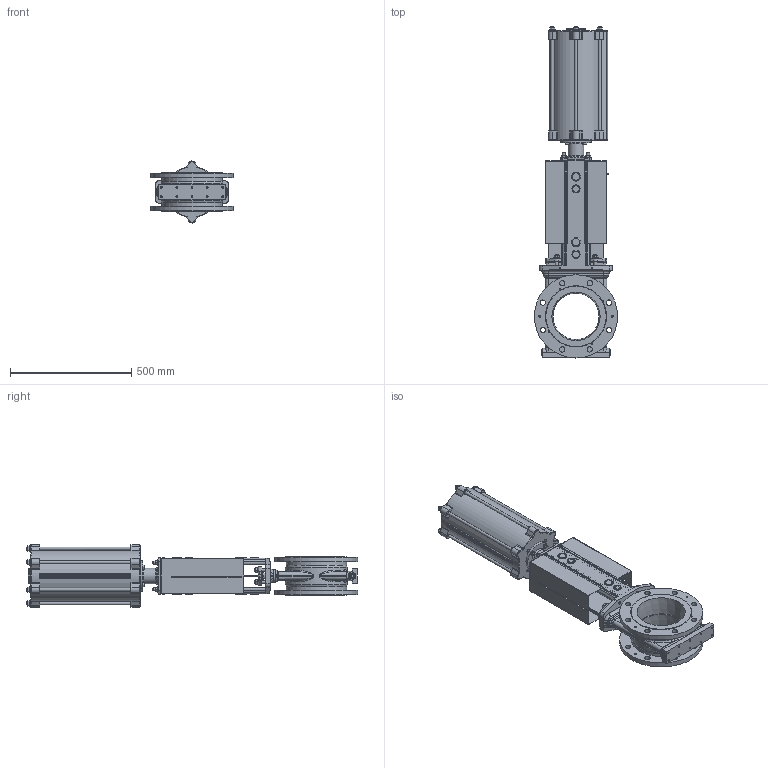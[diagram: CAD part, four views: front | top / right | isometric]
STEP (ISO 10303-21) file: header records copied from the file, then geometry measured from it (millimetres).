
FILE_DESCRIPTION(/* description */ (''),/* implementation_level */ '2;1');
FILE_NAME(/* name */ 'F:\3D Sammanställningar\SLV-SLF\DN200\SLF-DN200-PN10-FRSC200-270.stp',/* time_stamp */ '2018-06-28T15:48:44+02:00',/* author */ ('chrsko'),/* organization */ (''),/* preprocessor_version */ 'ST-DEVELOPER v16.13',/* originating_system */ 'Autodesk Inventor 2018',/* authorisation */ '');
FILE_SCHEMA (('AUTOMOTIVE_DESIGN { 1 0 10303 214 3 1 1 }'));
Products named in the file (1): SLF-DN200-PN10-FRSC200-270
Bounding box: 343 x 1368.5 x 256 mm (x, y, z)
Volume: 15106033.3 mm3; surface area: 2979810.8 mm2
Topology: 3 solids, 3 shells, 2734 faces, 6602 edges, 3985 vertices
Faces by surface type: plane 929, cylinder 700, bspline 359, cone 322, torus 296, sphere 128
Full cylindrical faces by diameter (mm): 3 x10, 3.5 x8, 3.6 x8, 4 x2, 4.134 x8, 4.5 x8, 4.917 x8, 6 x1, 6.647 x10, 7 x4, 8.88 x1, 9.5 x2, 10 x12, 10.106 x2, 12 x40, 13 x22, 13.835 x4, 14 x4, 14.63 x4, 15 x4, 18 x3, 18.631 x2, 19 x4, 20.5 x1, 22 x16, 23 x4, 24 x19, 25.8 x2, 27 x1, 28 x4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
Entity records: 89262 total; most frequent: CARTESIAN_POINT 29468, DIRECTION 12772, ORIENTED_EDGE 11902, EDGE_CURVE 5951, AXIS2_PLACEMENT_3D 5508, VERTEX_POINT 3823, EDGE_LOOP 3492, CIRCLE 2764
